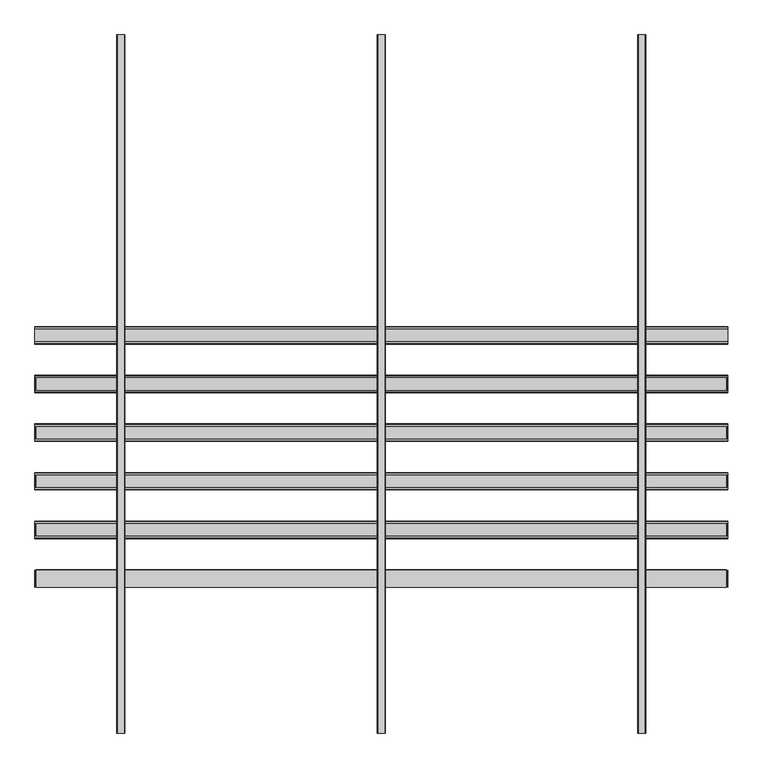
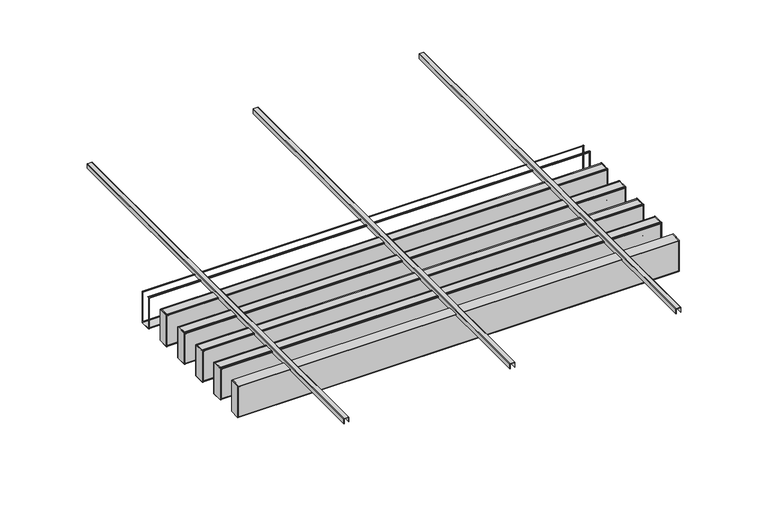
"""IFC4 building model written with IfcOpenShell, lengths in millimetres: proxy geometry, durlum_POLYLAM : durlum_POLYLAM 100 RV-L6."""

from ifc_helpers import new_model, si_unit, point, frame, frame_2d, origin, place, context, project, spatial, polyline, circle_curve, trimmed, segment, composite_curve, outline, extrude, source, transform, mapped, element, save
from ifc_brep_helpers import plane_surface, cylinder_surface, advanced_brep


def generic_models_fc41ec27(model_context):
    return source(origin(), model_context, "Body", "SolidModel", [
        advanced_brep(
        [(1995.0, 328.0, 2016.9), (1995.0, 318.0, 2016.9), (1995.0, 318.0, 2015.9), (1995.0, 329.0, 2015.9), (1995.0, 329.0, 1717.9), (1995.0, 231.0, 1717.9), (1995.0, 231.0, 2015.8155735), (1995.0, 242.0, 2015.8155735), (1995.0, 242.0, 2016.9), (1995.0, 232.0, 2016.9), (1995.0, 230.0, 2014.9), (1995.0, 230.0, 1718.9), (1995.0, 232.0, 1716.9), (1995.0, 328.0, 1716.9), (1995.0, 330.0, 1718.9), (1995.0, 330.0, 2014.9), (-1995.0, 328.0, 2016.9), (-1995.0, 330.0, 2014.9), (-1995.0, 330.0, 1718.9), (-1995.0, 328.0, 1716.9), (-1995.0, 232.0, 1716.9), (-1995.0, 230.0, 1718.9), (-1995.0, 230.0, 2014.9), (-1995.0, 232.0, 2016.9), (-1995.0, 242.0, 2016.9), (-1995.0, 242.0, 2015.8155735), (-1995.0, 231.0, 2015.8155735), (-1995.0, 231.0, 1717.9), (-1995.0, 329.0, 1717.9), (-1995.0, 329.0, 2015.9), (-1995.0, 318.0, 2015.9), (-1995.0, 318.0, 2016.9), (-1986.5, 329.0, 2008.4), (1986.5, 329.0, 2008.4), (1986.5, 329.0, 1725.4), (-1986.5, 329.0, 1725.4), (1986.5, 231.0, 2008.4), (-1986.5, 231.0, 2008.4), (-1986.5, 231.0, 1725.4), (1986.5, 231.0, 1725.4), (-1986.5, 230.0, 2008.4), (1986.5, 230.0, 2008.4), (1986.5, 230.0, 1725.4), (-1986.5, 230.0, 1725.4), (1986.5, 330.0, 2008.4), (-1986.5, 330.0, 2008.4), (-1986.5, 330.0, 1725.4), (1986.5, 330.0, 1725.4)],
        [
            (0, 1),
            (1, 2),
            (2, 3),
            (3, 4),
            (4, 5),
            (5, 6),
            (6, 7),
            (7, 8),
            (8, 9),
            (9, 10, circle_curve(frame((1995.0, 232.0, 2014.9), z_axis=(1.0, 0.0, 0.0), x_axis=(0.0, 1.0, 0.0)), 2.0)),
            (10, 11),
            (11, 12, circle_curve(frame((1995.0, 232.0, 1718.9), z_axis=(1.0, 0.0, 0.0), x_axis=(0.0, 1.0, 0.0)), 2.0)),
            (12, 13),
            (13, 14, circle_curve(frame((1995.0, 328.0, 1718.9), z_axis=(1.0, 0.0, 0.0), x_axis=(0.0, 1.0, 0.0)), 2.0)),
            (14, 15),
            (15, 0, circle_curve(frame((1995.0, 328.0, 2014.9), z_axis=(1.0, 0.0, 0.0), x_axis=(0.0, 1.0, 0.0)), 2.0)),
            (16, 17, circle_curve(frame((-1995.0, 328.0, 2014.9), z_axis=(-1.0, 0.0, 0.0), x_axis=(0.0, 1.0, 0.0)), 2.0)),
            (17, 18),
            (18, 19, circle_curve(frame((-1995.0, 328.0, 1718.9), z_axis=(-1.0, 0.0, 0.0), x_axis=(0.0, 1.0, 0.0)), 2.0)),
            (19, 20),
            (20, 21, circle_curve(frame((-1995.0, 232.0, 1718.9), z_axis=(-1.0, 0.0, 0.0), x_axis=(0.0, 1.0, 0.0)), 2.0)),
            (21, 22),
            (22, 23, circle_curve(frame((-1995.0, 232.0, 2014.9), z_axis=(-1.0, 0.0, 0.0), x_axis=(0.0, 1.0, 0.0)), 2.0)),
            (23, 24),
            (24, 25),
            (25, 26),
            (26, 27),
            (27, 28),
            (28, 29),
            (29, 30),
            (30, 31),
            (31, 16),
            (0, 16),
            (31, 1),
            (30, 2),
            (29, 3),
            (28, 4),
            (32, 33),
            (33, 34),
            (34, 35),
            (35, 32),
            (27, 5),
            (26, 6),
            (36, 37),
            (37, 38),
            (38, 39),
            (39, 36),
            (25, 7),
            (24, 8),
            (23, 9),
            (10, 22),
            (21, 11),
            (40, 41),
            (41, 42),
            (42, 43),
            (43, 40),
            (12, 20),
            (19, 13),
            (14, 18),
            (17, 15),
            (44, 45),
            (45, 46),
            (46, 47),
            (47, 44),
            (44, 33),
            (32, 45),
            (36, 41),
            (40, 37),
            (35, 46),
            (43, 38),
            (34, 47),
            (42, 39),
        ],
        [
            plane_surface(frame((1995.0, 318.0, 2016.9), z_axis=(1.0, 0.0, 0.0), x_axis=(0.0, -1.0, 0.0))),
            plane_surface(frame((-1995.0, 318.0, 2016.9), z_axis=(-1.0, 0.0, 0.0), x_axis=(0.0, 1.0, 0.0))),
            plane_surface(frame((1995.0, 328.0, 2016.9), z_axis=(0.0, 0.0, 1.0), x_axis=(-1.0, 0.0, 0.0))),
            plane_surface(frame((1995.0, 318.0, 2016.9), z_axis=(0.0, -1.0, 0.0), x_axis=(-1.0, 0.0, 0.0))),
            plane_surface(frame((1995.0, 318.0, 2015.9), z_axis=(0.0, 0.0, -1.0), x_axis=(-1.0, 0.0, 0.0))),
            plane_surface(frame((1995.0, 329.0, 2015.9), z_axis=(0.0, -1.0, 0.0), x_axis=(-1.0, 0.0, 0.0))),
            plane_surface(frame((1995.0, 329.0, 1717.9), z_axis=(0.0, 0.0, 1.0), x_axis=(-1.0, 0.0, 0.0))),
            plane_surface(frame((1995.0, 231.0, 1717.9), z_axis=(0.0, 1.0, 0.0), x_axis=(-1.0, 0.0, 0.0))),
            plane_surface(frame((1995.0, 231.0, 2015.8155735), z_axis=(0.0, 0.0, -1.0), x_axis=(-1.0, 0.0, 0.0))),
            plane_surface(frame((1995.0, 242.0, 2015.8155735), z_axis=(0.0, 1.0, 0.0), x_axis=(-1.0, 0.0, 0.0))),
            plane_surface(frame((1995.0, 242.0, 2016.9), z_axis=(0.0, 0.0, 1.0), x_axis=(-1.0, 0.0, 0.0))),
            plane_surface(frame((1995.0, 230.0, 2014.9), z_axis=(0.0, -1.0, 0.0), x_axis=(-1.0, 0.0, 0.0))),
            plane_surface(frame((1995.0, 232.0, 1716.9), z_axis=(0.0, 0.0, -1.0), x_axis=(-1.0, 0.0, 0.0))),
            plane_surface(frame((1995.0, 330.0, 1718.9), z_axis=(0.0, 1.0, 0.0), x_axis=(-1.0, 0.0, 0.0))),
            cylinder_surface(frame((-1995.0, 232.0, 2014.9), z_axis=(1.0, 0.0, 0.0), x_axis=(0.0, 1.0, 0.0)), 2.0),
            cylinder_surface(frame((-1995.0, 232.0, 1718.9), z_axis=(1.0, 0.0, 0.0), x_axis=(0.0, 1.0, 0.0)), 2.0),
            cylinder_surface(frame((-1995.0, 328.0, 1718.9), z_axis=(1.0, 0.0, 0.0), x_axis=(0.0, 1.0, 0.0)), 2.0),
            cylinder_surface(frame((-1995.0, 328.0, 2014.9), z_axis=(1.0, 0.0, 0.0), x_axis=(0.0, 1.0, 0.0)), 2.0),
            plane_surface(frame((1986.5, 230.0, 2008.4), z_axis=(0.0, 0.0, -1.0), x_axis=(0.0, 1.0, 0.0))),
            plane_surface(frame((-1986.5, 230.0, 2008.4), z_axis=(1.0, 0.0, 0.0), x_axis=(0.0, 1.0, 0.0))),
            plane_surface(frame((-1986.5, 230.0, 1725.4), z_axis=(0.0, 0.0, 1.0), x_axis=(0.0, 1.0, 0.0))),
            plane_surface(frame((1986.5, 230.0, 1725.4), z_axis=(-1.0, 0.0, 0.0), x_axis=(0.0, 1.0, 0.0))),
        ],
        [
            (0, [[1, 2, 3, 4, 5, 6, 7, 8, 9, 10, 11, 12, 13, 14, 15, 16]]),
            (1, [[17, 18, 19, 20, 21, 22, 23, 24, 25, 26, 27, 28, 29, 30, 31, 32]]),
            (2, [[-1, 33, -32, 34]]),
            (3, [[-2, -34, -31, 35]]),
            (4, [[-3, -35, -30, 36]]),
            (5, [[-4, -36, -29, 37], [38, 39, 40, 41]]),
            (6, [[-5, -37, -28, 42]]),
            (7, [[-6, -42, -27, 43], [44, 45, 46, 47]]),
            (8, [[-7, -43, -26, 48]]),
            (9, [[-8, -48, -25, 49]]),
            (10, [[-9, -49, -24, 50]]),
            (11, [[-11, 51, -22, 52], [53, 54, 55, 56]]),
            (12, [[-13, 57, -20, 58]]),
            (13, [[-15, 59, -18, 60], [61, 62, 63, 64]]),
            (14, [[-10, -50, -23, -51]]),
            (15, [[-12, -52, -21, -57]]),
            (16, [[-14, -58, -19, -59]]),
            (17, [[-16, -60, -17, -33]]),
            (18, [[65, -38, 66, -61]]),
            (18, [[67, -53, 68, -44]]),
            (19, [[-66, -41, 69, -62]]),
            (19, [[-68, -56, 70, -45]]),
            (20, [[-69, -40, 71, -63]]),
            (20, [[-70, -55, 72, -46]]),
            (21, [[-65, -64, -71, -39]]),
            (21, [[-67, -47, -72, -54]]),
        ],
    ),
        extrude(outline(composite_curve([segment(polyline([(2005.0, 22.5), (2047.0, 22.5)]), True, "CONTINUOUS"), segment(trimmed(circle_curve(frame_2d((2047.0, 19.5)), 3.0), [point((2047.0, 22.5))], [point((2050.0, 19.5))], False, "CARTESIAN"), True, "CONTINUOUS"), segment(polyline([(2050.0, 19.5), (2050.0, -19.5)]), True, "CONTINUOUS"), segment(trimmed(circle_curve(frame_2d((2047.0, -19.5)), 3.0), [point((2050.0, -19.5))], [point((2047.0, -22.5))], False, "CARTESIAN"), True, "CONTINUOUS"), segment(polyline([(2047.0, -22.5), (2005.0, -22.5), (2005.0, -21.0), (2047.0, -21.0)]), True, "CONTINUOUS"), segment(trimmed(circle_curve(frame_2d((2047.0, -19.5)), 1.5), [point((2047.0, -21.0))], [point((2048.5, -19.5))], True, "CARTESIAN"), True, "CONTINUOUS"), segment(polyline([(2048.5, -19.5), (2048.5, 19.5)]), True, "CONTINUOUS"), segment(trimmed(circle_curve(frame_2d((2047.0, 19.5)), 1.5), [point((2048.5, 19.5))], [point((2047.0, 21.0))], True, "CARTESIAN"), True, "CONTINUOUS"), segment(polyline([(2047.0, 21.0), (2005.0, 21.0), (2005.0, 22.5)]), True, "CONTINUOUS")], self_intersect=False)), frame((0.0, -2010.0, 0.0), z_axis=(0.0, 1.0, 0.0), x_axis=(0.0, 0.0, 1.0)), (0.0, 0.0, 1.0), 4020.0),
        extrude(outline(composite_curve([segment(polyline([(2005.0, -1477.5), (2047.0, -1477.5)]), True, "CONTINUOUS"), segment(trimmed(circle_curve(frame_2d((2047.0, -1480.5)), 3.0), [point((2047.0, -1477.5))], [point((2050.0, -1480.5))], False, "CARTESIAN"), True, "CONTINUOUS"), segment(polyline([(2050.0, -1480.5), (2050.0, -1519.5)]), True, "CONTINUOUS"), segment(trimmed(circle_curve(frame_2d((2047.0, -1519.5)), 3.0), [point((2050.0, -1519.5))], [point((2047.0, -1522.5))], False, "CARTESIAN"), True, "CONTINUOUS"), segment(polyline([(2047.0, -1522.5), (2005.0, -1522.5), (2005.0, -1521.0), (2047.0, -1521.0)]), True, "CONTINUOUS"), segment(trimmed(circle_curve(frame_2d((2047.0, -1519.5)), 1.5), [point((2047.0, -1521.0))], [point((2048.5, -1519.5))], True, "CARTESIAN"), True, "CONTINUOUS"), segment(polyline([(2048.5, -1519.5), (2048.5, -1480.5)]), True, "CONTINUOUS"), segment(trimmed(circle_curve(frame_2d((2047.0, -1480.5)), 1.5), [point((2048.5, -1480.5))], [point((2047.0, -1479.0))], True, "CARTESIAN"), True, "CONTINUOUS"), segment(polyline([(2047.0, -1479.0), (2005.0, -1479.0), (2005.0, -1477.5)]), True, "CONTINUOUS")], self_intersect=False)), frame((0.0, -2010.0, 0.0), z_axis=(0.0, 1.0, 0.0), x_axis=(0.0, 0.0, 1.0)), (0.0, 0.0, 1.0), 4020.0),
        extrude(outline(composite_curve([segment(polyline([(2005.0, 1522.5), (2047.0, 1522.5)]), True, "CONTINUOUS"), segment(trimmed(circle_curve(frame_2d((2047.0, 1519.5)), 3.0), [point((2047.0, 1522.5))], [point((2050.0, 1519.5))], False, "CARTESIAN"), True, "CONTINUOUS"), segment(polyline([(2050.0, 1519.5), (2050.0, 1480.5)]), True, "CONTINUOUS"), segment(trimmed(circle_curve(frame_2d((2047.0, 1480.5)), 3.0), [point((2050.0, 1480.5))], [point((2047.0, 1477.5))], False, "CARTESIAN"), True, "CONTINUOUS"), segment(polyline([(2047.0, 1477.5), (2005.0, 1477.5), (2005.0, 1479.0), (2047.0, 1479.0)]), True, "CONTINUOUS"), segment(trimmed(circle_curve(frame_2d((2047.0, 1480.5)), 1.5), [point((2047.0, 1479.0))], [point((2048.5, 1480.5))], True, "CARTESIAN"), True, "CONTINUOUS"), segment(polyline([(2048.5, 1480.5), (2048.5, 1519.5)]), True, "CONTINUOUS"), segment(trimmed(circle_curve(frame_2d((2047.0, 1519.5)), 1.5), [point((2048.5, 1519.5))], [point((2047.0, 1521.0))], True, "CARTESIAN"), True, "CONTINUOUS"), segment(polyline([(2047.0, 1521.0), (2005.0, 1521.0), (2005.0, 1522.5)]), True, "CONTINUOUS")], self_intersect=False)), frame((0.0, -2010.0, 0.0), z_axis=(0.0, 1.0, 0.0), x_axis=(0.0, 0.0, 1.0)), (0.0, 0.0, 1.0), 4020.0),
        extrude(outline(polyline([(1993.0, 49.0), (1995.0, 49.0), (1995.0, -49.0), (1993.0, -49.0), (1993.0, 49.0)])), frame((0.0, 0.0, 1717.9), z_axis=(0.0, 0.0, 1.0), x_axis=(1.0, 0.0, 0.0)), (0.0, 0.0, 1.0), 298.0),
        extrude(outline(polyline([(-1995.0, 49.0), (-1993.0, 49.0), (-1993.0, -49.0), (-1995.0, -49.0), (-1995.0, 49.0)])), frame((0.0, 0.0, 1717.9), z_axis=(0.0, 0.0, 1.0), x_axis=(1.0, 0.0, 0.0)), (0.0, 0.0, 1.0), 298.0),
        extrude(outline(polyline([(1986.5, 49.0), (1986.5, -49.0), (-1986.5, -49.0), (-1986.5, 49.0), (1986.5, 49.0)])), frame((0.0, 0.0, 1717.9), z_axis=(0.0, 0.0, 1.0), x_axis=(1.0, 0.0, 0.0)), (0.0, 0.0, 1.0), 298.0),
        extrude(outline(polyline([(1986.5, 49.0), (-1986.5, 49.0), (-1986.5, 50.0), (1986.5, 50.0), (1986.5, 49.0)])), frame((0.0, 0.0, 1725.4), z_axis=(0.0, 0.0, 1.0), x_axis=(1.0, 0.0, 0.0)), (0.0, 0.0, 1.0), 283.0),
        extrude(outline(polyline([(1986.5, -50.0), (-1986.5, -50.0), (-1986.5, -49.0), (1986.5, -49.0), (1986.5, -50.0)])), frame((0.0, 0.0, 1725.4), z_axis=(0.0, 0.0, 1.0), x_axis=(1.0, 0.0, 0.0)), (0.0, 0.0, 1.0), 283.0),
        advanced_brep(
        [(1995.0, 48.0, 2016.9), (1995.0, 38.0, 2016.9), (1995.0, 38.0, 2015.9), (1995.0, 49.0, 2015.9), (1995.0, 49.0, 1717.9), (1995.0, -49.0, 1717.9), (1995.0, -49.0, 2015.8155735), (1995.0, -38.0, 2015.8155735), (1995.0, -38.0, 2016.9), (1995.0, -48.0, 2016.9), (1995.0, -50.0, 2014.9), (1995.0, -50.0, 1718.9), (1995.0, -48.0, 1716.9), (1995.0, 48.0, 1716.9), (1995.0, 50.0, 1718.9), (1995.0, 50.0, 2014.9), (-1995.0, 48.0, 2016.9), (-1995.0, 50.0, 2014.9), (-1995.0, 50.0, 1718.9), (-1995.0, 48.0, 1716.9), (-1995.0, -48.0, 1716.9), (-1995.0, -50.0, 1718.9), (-1995.0, -50.0, 2014.9), (-1995.0, -48.0, 2016.9), (-1995.0, -38.0, 2016.9), (-1995.0, -38.0, 2015.8155735), (-1995.0, -49.0, 2015.8155735), (-1995.0, -49.0, 1717.9), (-1995.0, 49.0, 1717.9), (-1995.0, 49.0, 2015.9), (-1995.0, 38.0, 2015.9), (-1995.0, 38.0, 2016.9), (-1986.5, 49.0, 2008.4), (1986.5, 49.0, 2008.4), (1986.5, 49.0, 1725.4), (-1986.5, 49.0, 1725.4), (1986.5, -49.0, 2008.4), (-1986.5, -49.0, 2008.4), (-1986.5, -49.0, 1725.4), (1986.5, -49.0, 1725.4), (-1986.5, -50.0, 2008.4), (1986.5, -50.0, 2008.4), (1986.5, -50.0, 1725.4), (-1986.5, -50.0, 1725.4), (1986.5, 50.0, 2008.4), (-1986.5, 50.0, 2008.4), (-1986.5, 50.0, 1725.4), (1986.5, 50.0, 1725.4)],
        [
            (0, 1),
            (1, 2),
            (2, 3),
            (3, 4),
            (4, 5),
            (5, 6),
            (6, 7),
            (7, 8),
            (8, 9),
            (9, 10, circle_curve(frame((1995.0, -48.0, 2014.9), z_axis=(1.0, 0.0, 0.0), x_axis=(0.0, 1.0, 0.0)), 2.0)),
            (10, 11),
            (11, 12, circle_curve(frame((1995.0, -48.0, 1718.9), z_axis=(1.0, 0.0, 0.0), x_axis=(0.0, 1.0, 0.0)), 2.0)),
            (12, 13),
            (13, 14, circle_curve(frame((1995.0, 48.0, 1718.9), z_axis=(1.0, 0.0, 0.0), x_axis=(0.0, 1.0, 0.0)), 2.0)),
            (14, 15),
            (15, 0, circle_curve(frame((1995.0, 48.0, 2014.9), z_axis=(1.0, 0.0, 0.0), x_axis=(0.0, 1.0, 0.0)), 2.0)),
            (16, 17, circle_curve(frame((-1995.0, 48.0, 2014.9), z_axis=(-1.0, 0.0, 0.0), x_axis=(0.0, 1.0, 0.0)), 2.0)),
            (17, 18),
            (18, 19, circle_curve(frame((-1995.0, 48.0, 1718.9), z_axis=(-1.0, 0.0, 0.0), x_axis=(0.0, 1.0, 0.0)), 2.0)),
            (19, 20),
            (20, 21, circle_curve(frame((-1995.0, -48.0, 1718.9), z_axis=(-1.0, 0.0, 0.0), x_axis=(0.0, 1.0, 0.0)), 2.0)),
            (21, 22),
            (22, 23, circle_curve(frame((-1995.0, -48.0, 2014.9), z_axis=(-1.0, 0.0, 0.0), x_axis=(0.0, 1.0, 0.0)), 2.0)),
            (23, 24),
            (24, 25),
            (25, 26),
            (26, 27),
            (27, 28),
            (28, 29),
            (29, 30),
            (30, 31),
            (31, 16),
            (0, 16),
            (31, 1),
            (30, 2),
            (29, 3),
            (28, 4),
            (32, 33),
            (33, 34),
            (34, 35),
            (35, 32),
            (27, 5),
            (26, 6),
            (36, 37),
            (37, 38),
            (38, 39),
            (39, 36),
            (25, 7),
            (24, 8),
            (23, 9),
            (10, 22),
            (21, 11),
            (40, 41),
            (41, 42),
            (42, 43),
            (43, 40),
            (12, 20),
            (19, 13),
            (14, 18),
            (17, 15),
            (44, 45),
            (45, 46),
            (46, 47),
            (47, 44),
            (44, 33),
            (32, 45),
            (36, 41),
            (40, 37),
            (35, 46),
            (43, 38),
            (34, 47),
            (42, 39),
        ],
        [
            plane_surface(frame((1995.0, 38.0, 2016.9), z_axis=(1.0, 0.0, 0.0), x_axis=(0.0, -1.0, 0.0))),
            plane_surface(frame((-1995.0, 38.0, 2016.9), z_axis=(-1.0, 0.0, 0.0), x_axis=(0.0, 1.0, 0.0))),
            plane_surface(frame((1995.0, 48.0, 2016.9), z_axis=(0.0, 0.0, 1.0), x_axis=(-1.0, 0.0, 0.0))),
            plane_surface(frame((1995.0, 38.0, 2016.9), z_axis=(0.0, -1.0, 0.0), x_axis=(-1.0, 0.0, 0.0))),
            plane_surface(frame((1995.0, 38.0, 2015.9), z_axis=(0.0, 0.0, -1.0), x_axis=(-1.0, 0.0, 0.0))),
            plane_surface(frame((1995.0, 49.0, 2015.9), z_axis=(0.0, -1.0, 0.0), x_axis=(-1.0, 0.0, 0.0))),
            plane_surface(frame((1995.0, 49.0, 1717.9), z_axis=(0.0, 0.0, 1.0), x_axis=(-1.0, 0.0, 0.0))),
            plane_surface(frame((1995.0, -49.0, 1717.9), z_axis=(0.0, 1.0, 0.0), x_axis=(-1.0, 0.0, 0.0))),
            plane_surface(frame((1995.0, -49.0, 2015.8155735), z_axis=(0.0, 0.0, -1.0), x_axis=(-1.0, 0.0, 0.0))),
            plane_surface(frame((1995.0, -38.0, 2015.8155735), z_axis=(0.0, 1.0, 0.0), x_axis=(-1.0, 0.0, 0.0))),
            plane_surface(frame((1995.0, -38.0, 2016.9), z_axis=(0.0, 0.0, 1.0), x_axis=(-1.0, 0.0, 0.0))),
            plane_surface(frame((1995.0, -50.0, 2014.9), z_axis=(0.0, -1.0, 0.0), x_axis=(-1.0, 0.0, 0.0))),
            plane_surface(frame((1995.0, -48.0, 1716.9), z_axis=(0.0, 0.0, -1.0), x_axis=(-1.0, 0.0, 0.0))),
            plane_surface(frame((1995.0, 50.0, 1718.9), z_axis=(0.0, 1.0, 0.0), x_axis=(-1.0, 0.0, 0.0))),
            cylinder_surface(frame((-1995.0, -48.0, 2014.9), z_axis=(1.0, 0.0, 0.0), x_axis=(0.0, 1.0, 0.0)), 2.0),
            cylinder_surface(frame((-1995.0, -48.0, 1718.9), z_axis=(1.0, 0.0, 0.0), x_axis=(0.0, 1.0, 0.0)), 2.0),
            cylinder_surface(frame((-1995.0, 48.0, 1718.9), z_axis=(1.0, 0.0, 0.0), x_axis=(0.0, 1.0, 0.0)), 2.0),
            cylinder_surface(frame((-1995.0, 48.0, 2014.9), z_axis=(1.0, 0.0, 0.0), x_axis=(0.0, 1.0, 0.0)), 2.0),
            plane_surface(frame((1986.5, -50.0, 2008.4), z_axis=(0.0, 0.0, -1.0), x_axis=(0.0, 1.0, 0.0))),
            plane_surface(frame((-1986.5, -50.0, 2008.4), z_axis=(1.0, 0.0, 0.0), x_axis=(0.0, 1.0, 0.0))),
            plane_surface(frame((-1986.5, -50.0, 1725.4), z_axis=(0.0, 0.0, 1.0), x_axis=(0.0, 1.0, 0.0))),
            plane_surface(frame((1986.5, -50.0, 1725.4), z_axis=(-1.0, 0.0, 0.0), x_axis=(0.0, 1.0, 0.0))),
        ],
        [
            (0, [[1, 2, 3, 4, 5, 6, 7, 8, 9, 10, 11, 12, 13, 14, 15, 16]]),
            (1, [[17, 18, 19, 20, 21, 22, 23, 24, 25, 26, 27, 28, 29, 30, 31, 32]]),
            (2, [[-1, 33, -32, 34]]),
            (3, [[-2, -34, -31, 35]]),
            (4, [[-3, -35, -30, 36]]),
            (5, [[-4, -36, -29, 37], [38, 39, 40, 41]]),
            (6, [[-5, -37, -28, 42]]),
            (7, [[-6, -42, -27, 43], [44, 45, 46, 47]]),
            (8, [[-7, -43, -26, 48]]),
            (9, [[-8, -48, -25, 49]]),
            (10, [[-9, -49, -24, 50]]),
            (11, [[-11, 51, -22, 52], [53, 54, 55, 56]]),
            (12, [[-13, 57, -20, 58]]),
            (13, [[-15, 59, -18, 60], [61, 62, 63, 64]]),
            (14, [[-10, -50, -23, -51]]),
            (15, [[-12, -52, -21, -57]]),
            (16, [[-14, -58, -19, -59]]),
            (17, [[-16, -60, -17, -33]]),
            (18, [[65, -38, 66, -61]]),
            (18, [[67, -53, 68, -44]]),
            (19, [[-66, -41, 69, -62]]),
            (19, [[-68, -56, 70, -45]]),
            (20, [[-69, -40, 71, -63]]),
            (20, [[-70, -55, 72, -46]]),
            (21, [[-65, -64, -71, -39]]),
            (21, [[-67, -47, -72, -54]]),
        ],
    ),
        extrude(outline(polyline([(1993.0, -231.0), (1995.0, -231.0), (1995.0, -329.0), (1993.0, -329.0), (1993.0, -231.0)])), frame((0.0, 0.0, 1717.9), z_axis=(0.0, 0.0, 1.0), x_axis=(1.0, 0.0, 0.0)), (0.0, 0.0, 1.0), 298.0),
        extrude(outline(polyline([(-1995.0, -231.0), (-1993.0, -231.0), (-1993.0, -329.0), (-1995.0, -329.0), (-1995.0, -231.0)])), frame((0.0, 0.0, 1717.9), z_axis=(0.0, 0.0, 1.0), x_axis=(1.0, 0.0, 0.0)), (0.0, 0.0, 1.0), 298.0),
        extrude(outline(polyline([(1986.5, -231.0), (1986.5, -329.0), (-1986.5, -329.0), (-1986.5, -231.0), (1986.5, -231.0)])), frame((0.0, 0.0, 1717.9), z_axis=(0.0, 0.0, 1.0), x_axis=(1.0, 0.0, 0.0)), (0.0, 0.0, 1.0), 298.0),
        extrude(outline(polyline([(1986.5, -231.0), (-1986.5, -231.0), (-1986.5, -230.0), (1986.5, -230.0), (1986.5, -231.0)])), frame((0.0, 0.0, 1725.4), z_axis=(0.0, 0.0, 1.0), x_axis=(1.0, 0.0, 0.0)), (0.0, 0.0, 1.0), 283.0),
        extrude(outline(polyline([(1986.5, -330.0), (-1986.5, -330.0), (-1986.5, -329.0), (1986.5, -329.0), (1986.5, -330.0)])), frame((0.0, 0.0, 1725.4), z_axis=(0.0, 0.0, 1.0), x_axis=(1.0, 0.0, 0.0)), (0.0, 0.0, 1.0), 283.0),
        advanced_brep(
        [(1995.0, -232.0, 2016.9), (1995.0, -242.0, 2016.9), (1995.0, -242.0, 2015.9), (1995.0, -231.0, 2015.9), (1995.0, -231.0, 1717.9), (1995.0, -329.0, 1717.9), (1995.0, -329.0, 2015.8155735), (1995.0, -318.0, 2015.8155735), (1995.0, -318.0, 2016.9), (1995.0, -328.0, 2016.9), (1995.0, -330.0, 2014.9), (1995.0, -330.0, 1718.9), (1995.0, -328.0, 1716.9), (1995.0, -232.0, 1716.9), (1995.0, -230.0, 1718.9), (1995.0, -230.0, 2014.9), (-1995.0, -232.0, 2016.9), (-1995.0, -230.0, 2014.9), (-1995.0, -230.0, 1718.9), (-1995.0, -232.0, 1716.9), (-1995.0, -328.0, 1716.9), (-1995.0, -330.0, 1718.9), (-1995.0, -330.0, 2014.9), (-1995.0, -328.0, 2016.9), (-1995.0, -318.0, 2016.9), (-1995.0, -318.0, 2015.8155735), (-1995.0, -329.0, 2015.8155735), (-1995.0, -329.0, 1717.9), (-1995.0, -231.0, 1717.9), (-1995.0, -231.0, 2015.9), (-1995.0, -242.0, 2015.9), (-1995.0, -242.0, 2016.9), (-1986.5, -231.0, 2008.4), (1986.5, -231.0, 2008.4), (1986.5, -231.0, 1725.4), (-1986.5, -231.0, 1725.4), (1986.5, -329.0, 2008.4), (-1986.5, -329.0, 2008.4), (-1986.5, -329.0, 1725.4), (1986.5, -329.0, 1725.4), (-1986.5, -330.0, 2008.4), (1986.5, -330.0, 2008.4), (1986.5, -330.0, 1725.4), (-1986.5, -330.0, 1725.4), (1986.5, -230.0, 2008.4), (-1986.5, -230.0, 2008.4), (-1986.5, -230.0, 1725.4), (1986.5, -230.0, 1725.4)],
        [
            (0, 1),
            (1, 2),
            (2, 3),
            (3, 4),
            (4, 5),
            (5, 6),
            (6, 7),
            (7, 8),
            (8, 9),
            (9, 10, circle_curve(frame((1995.0, -328.0, 2014.9), z_axis=(1.0, 0.0, 0.0), x_axis=(0.0, 1.0, 0.0)), 2.0)),
            (10, 11),
            (11, 12, circle_curve(frame((1995.0, -328.0, 1718.9), z_axis=(1.0, 0.0, 0.0), x_axis=(0.0, 1.0, 0.0)), 2.0)),
            (12, 13),
            (13, 14, circle_curve(frame((1995.0, -232.0, 1718.9), z_axis=(1.0, 0.0, 0.0), x_axis=(0.0, 1.0, 0.0)), 2.0)),
            (14, 15),
            (15, 0, circle_curve(frame((1995.0, -232.0, 2014.9), z_axis=(1.0, 0.0, 0.0), x_axis=(0.0, 1.0, 0.0)), 2.0)),
            (16, 17, circle_curve(frame((-1995.0, -232.0, 2014.9), z_axis=(-1.0, 0.0, 0.0), x_axis=(0.0, 1.0, 0.0)), 2.0)),
            (17, 18),
            (18, 19, circle_curve(frame((-1995.0, -232.0, 1718.9), z_axis=(-1.0, 0.0, 0.0), x_axis=(0.0, 1.0, 0.0)), 2.0)),
            (19, 20),
            (20, 21, circle_curve(frame((-1995.0, -328.0, 1718.9), z_axis=(-1.0, 0.0, 0.0), x_axis=(0.0, 1.0, 0.0)), 2.0)),
            (21, 22),
            (22, 23, circle_curve(frame((-1995.0, -328.0, 2014.9), z_axis=(-1.0, 0.0, 0.0), x_axis=(0.0, 1.0, 0.0)), 2.0)),
            (23, 24),
            (24, 25),
            (25, 26),
            (26, 27),
            (27, 28),
            (28, 29),
            (29, 30),
            (30, 31),
            (31, 16),
            (0, 16),
            (31, 1),
            (30, 2),
            (29, 3),
            (28, 4),
            (32, 33),
            (33, 34),
            (34, 35),
            (35, 32),
            (27, 5),
            (26, 6),
            (36, 37),
            (37, 38),
            (38, 39),
            (39, 36),
            (25, 7),
            (24, 8),
            (23, 9),
            (10, 22),
            (21, 11),
            (40, 41),
            (41, 42),
            (42, 43),
            (43, 40),
            (12, 20),
            (19, 13),
            (14, 18),
            (17, 15),
            (44, 45),
            (45, 46),
            (46, 47),
            (47, 44),
            (44, 33),
            (32, 45),
            (36, 41),
            (40, 37),
            (35, 46),
            (43, 38),
            (34, 47),
            (42, 39),
        ],
        [
            plane_surface(frame((1995.0, -242.0, 2016.9), z_axis=(1.0, 0.0, 0.0), x_axis=(0.0, -1.0, 0.0))),
            plane_surface(frame((-1995.0, -242.0, 2016.9), z_axis=(-1.0, 0.0, 0.0), x_axis=(0.0, 1.0, 0.0))),
            plane_surface(frame((1995.0, -232.0, 2016.9), z_axis=(0.0, 0.0, 1.0), x_axis=(-1.0, 0.0, 0.0))),
            plane_surface(frame((1995.0, -242.0, 2016.9), z_axis=(0.0, -1.0, 0.0), x_axis=(-1.0, 0.0, 0.0))),
            plane_surface(frame((1995.0, -242.0, 2015.9), z_axis=(0.0, 0.0, -1.0), x_axis=(-1.0, 0.0, 0.0))),
            plane_surface(frame((1995.0, -231.0, 2015.9), z_axis=(0.0, -1.0, 0.0), x_axis=(-1.0, 0.0, 0.0))),
            plane_surface(frame((1995.0, -231.0, 1717.9), z_axis=(0.0, 0.0, 1.0), x_axis=(-1.0, 0.0, 0.0))),
            plane_surface(frame((1995.0, -329.0, 1717.9), z_axis=(0.0, 1.0, 0.0), x_axis=(-1.0, 0.0, 0.0))),
            plane_surface(frame((1995.0, -329.0, 2015.8155735), z_axis=(0.0, 0.0, -1.0), x_axis=(-1.0, 0.0, 0.0))),
            plane_surface(frame((1995.0, -318.0, 2015.8155735), z_axis=(0.0, 1.0, 0.0), x_axis=(-1.0, 0.0, 0.0))),
            plane_surface(frame((1995.0, -318.0, 2016.9), z_axis=(0.0, 0.0, 1.0), x_axis=(-1.0, 0.0, 0.0))),
            plane_surface(frame((1995.0, -330.0, 2014.9), z_axis=(0.0, -1.0, 0.0), x_axis=(-1.0, 0.0, 0.0))),
            plane_surface(frame((1995.0, -328.0, 1716.9), z_axis=(0.0, 0.0, -1.0), x_axis=(-1.0, 0.0, 0.0))),
            plane_surface(frame((1995.0, -230.0, 1718.9), z_axis=(0.0, 1.0, 0.0), x_axis=(-1.0, 0.0, 0.0))),
            cylinder_surface(frame((-1995.0, -328.0, 2014.9), z_axis=(1.0, 0.0, 0.0), x_axis=(0.0, 1.0, 0.0)), 2.0),
            cylinder_surface(frame((-1995.0, -328.0, 1718.9), z_axis=(1.0, 0.0, 0.0), x_axis=(0.0, 1.0, 0.0)), 2.0),
            cylinder_surface(frame((-1995.0, -232.0, 1718.9), z_axis=(1.0, 0.0, 0.0), x_axis=(0.0, 1.0, 0.0)), 2.0),
            cylinder_surface(frame((-1995.0, -232.0, 2014.9), z_axis=(1.0, 0.0, 0.0), x_axis=(0.0, 1.0, 0.0)), 2.0),
            plane_surface(frame((1986.5, -330.0, 2008.4), z_axis=(0.0, 0.0, -1.0), x_axis=(0.0, 1.0, 0.0))),
            plane_surface(frame((-1986.5, -330.0, 2008.4), z_axis=(1.0, 0.0, 0.0), x_axis=(0.0, 1.0, 0.0))),
            plane_surface(frame((-1986.5, -330.0, 1725.4), z_axis=(0.0, 0.0, 1.0), x_axis=(0.0, 1.0, 0.0))),
            plane_surface(frame((1986.5, -330.0, 1725.4), z_axis=(-1.0, 0.0, 0.0), x_axis=(0.0, 1.0, 0.0))),
        ],
        [
            (0, [[1, 2, 3, 4, 5, 6, 7, 8, 9, 10, 11, 12, 13, 14, 15, 16]]),
            (1, [[17, 18, 19, 20, 21, 22, 23, 24, 25, 26, 27, 28, 29, 30, 31, 32]]),
            (2, [[-1, 33, -32, 34]]),
            (3, [[-2, -34, -31, 35]]),
            (4, [[-3, -35, -30, 36]]),
            (5, [[-4, -36, -29, 37], [38, 39, 40, 41]]),
            (6, [[-5, -37, -28, 42]]),
            (7, [[-6, -42, -27, 43], [44, 45, 46, 47]]),
            (8, [[-7, -43, -26, 48]]),
            (9, [[-8, -48, -25, 49]]),
            (10, [[-9, -49, -24, 50]]),
            (11, [[-11, 51, -22, 52], [53, 54, 55, 56]]),
            (12, [[-13, 57, -20, 58]]),
            (13, [[-15, 59, -18, 60], [61, 62, 63, 64]]),
            (14, [[-10, -50, -23, -51]]),
            (15, [[-12, -52, -21, -57]]),
            (16, [[-14, -58, -19, -59]]),
            (17, [[-16, -60, -17, -33]]),
            (18, [[65, -38, 66, -61]]),
            (18, [[67, -53, 68, -44]]),
            (19, [[-66, -41, 69, -62]]),
            (19, [[-68, -56, 70, -45]]),
            (20, [[-69, -40, 71, -63]]),
            (20, [[-70, -55, 72, -46]]),
            (21, [[-65, -64, -71, -39]]),
            (21, [[-67, -47, -72, -54]]),
        ],
    ),
        extrude(outline(polyline([(1993.0, -511.0), (1995.0, -511.0), (1995.0, -609.0), (1993.0, -609.0), (1993.0, -511.0)])), frame((0.0, 0.0, 1717.9), z_axis=(0.0, 0.0, 1.0), x_axis=(1.0, 0.0, 0.0)), (0.0, 0.0, 1.0), 298.0),
        extrude(outline(polyline([(-1995.0, -511.0), (-1993.0, -511.0), (-1993.0, -609.0), (-1995.0, -609.0), (-1995.0, -511.0)])), frame((0.0, 0.0, 1717.9), z_axis=(0.0, 0.0, 1.0), x_axis=(1.0, 0.0, 0.0)), (0.0, 0.0, 1.0), 298.0),
        extrude(outline(polyline([(1986.5, -511.0), (1986.5, -609.0), (-1986.5, -609.0), (-1986.5, -511.0), (1986.5, -511.0)])), frame((0.0, 0.0, 1717.9), z_axis=(0.0, 0.0, 1.0), x_axis=(1.0, 0.0, 0.0)), (0.0, 0.0, 1.0), 298.0),
        extrude(outline(polyline([(1986.5, -511.0), (-1986.5, -511.0), (-1986.5, -510.0), (1986.5, -510.0), (1986.5, -511.0)])), frame((0.0, 0.0, 1725.4), z_axis=(0.0, 0.0, 1.0), x_axis=(1.0, 0.0, 0.0)), (0.0, 0.0, 1.0), 283.0),
        extrude(outline(polyline([(1986.5, -610.0), (-1986.5, -610.0), (-1986.5, -609.0), (1986.5, -609.0), (1986.5, -610.0)])), frame((0.0, 0.0, 1725.4), z_axis=(0.0, 0.0, 1.0), x_axis=(1.0, 0.0, 0.0)), (0.0, 0.0, 1.0), 283.0),
        advanced_brep(
        [(1995.0, -512.0, 2016.9), (1995.0, -522.0, 2016.9), (1995.0, -522.0, 2015.9), (1995.0, -511.0, 2015.9), (1995.0, -511.0, 1717.9), (1995.0, -609.0, 1717.9), (1995.0, -609.0, 2015.8155735), (1995.0, -598.0, 2015.8155735), (1995.0, -598.0, 2016.9), (1995.0, -608.0, 2016.9), (1995.0, -610.0, 2014.9), (1995.0, -610.0, 1718.9), (1995.0, -608.0, 1716.9), (1995.0, -512.0, 1716.9), (1995.0, -510.0, 1718.9), (1995.0, -510.0, 2014.9), (-1995.0, -512.0, 2016.9), (-1995.0, -510.0, 2014.9), (-1995.0, -510.0, 1718.9), (-1995.0, -512.0, 1716.9), (-1995.0, -608.0, 1716.9), (-1995.0, -610.0, 1718.9), (-1995.0, -610.0, 2014.9), (-1995.0, -608.0, 2016.9), (-1995.0, -598.0, 2016.9), (-1995.0, -598.0, 2015.8155735), (-1995.0, -609.0, 2015.8155735), (-1995.0, -609.0, 1717.9), (-1995.0, -511.0, 1717.9), (-1995.0, -511.0, 2015.9), (-1995.0, -522.0, 2015.9), (-1995.0, -522.0, 2016.9), (-1986.5, -511.0, 2008.4), (1986.5, -511.0, 2008.4), (1986.5, -511.0, 1725.4), (-1986.5, -511.0, 1725.4), (1986.5, -609.0, 2008.4), (-1986.5, -609.0, 2008.4), (-1986.5, -609.0, 1725.4), (1986.5, -609.0, 1725.4), (-1986.5, -610.0, 2008.4), (1986.5, -610.0, 2008.4), (1986.5, -610.0, 1725.4), (-1986.5, -610.0, 1725.4), (1986.5, -510.0, 2008.4), (-1986.5, -510.0, 2008.4), (-1986.5, -510.0, 1725.4), (1986.5, -510.0, 1725.4)],
        [
            (0, 1),
            (1, 2),
            (2, 3),
            (3, 4),
            (4, 5),
            (5, 6),
            (6, 7),
            (7, 8),
            (8, 9),
            (9, 10, circle_curve(frame((1995.0, -608.0, 2014.9), z_axis=(1.0, 0.0, 0.0), x_axis=(0.0, 1.0, 0.0)), 2.0)),
            (10, 11),
            (11, 12, circle_curve(frame((1995.0, -608.0, 1718.9), z_axis=(1.0, 0.0, 0.0), x_axis=(0.0, 1.0, 0.0)), 2.0)),
            (12, 13),
            (13, 14, circle_curve(frame((1995.0, -512.0, 1718.9), z_axis=(1.0, 0.0, 0.0), x_axis=(0.0, 1.0, 0.0)), 2.0)),
            (14, 15),
            (15, 0, circle_curve(frame((1995.0, -512.0, 2014.9), z_axis=(1.0, 0.0, 0.0), x_axis=(0.0, 1.0, 0.0)), 2.0)),
            (16, 17, circle_curve(frame((-1995.0, -512.0, 2014.9), z_axis=(-1.0, 0.0, 0.0), x_axis=(0.0, 1.0, 0.0)), 2.0)),
            (17, 18),
            (18, 19, circle_curve(frame((-1995.0, -512.0, 1718.9), z_axis=(-1.0, 0.0, 0.0), x_axis=(0.0, 1.0, 0.0)), 2.0)),
            (19, 20),
            (20, 21, circle_curve(frame((-1995.0, -608.0, 1718.9), z_axis=(-1.0, 0.0, 0.0), x_axis=(0.0, 1.0, 0.0)), 2.0)),
            (21, 22),
            (22, 23, circle_curve(frame((-1995.0, -608.0, 2014.9), z_axis=(-1.0, 0.0, 0.0), x_axis=(0.0, 1.0, 0.0)), 2.0)),
            (23, 24),
            (24, 25),
            (25, 26),
            (26, 27),
            (27, 28),
            (28, 29),
            (29, 30),
            (30, 31),
            (31, 16),
            (0, 16),
            (31, 1),
            (30, 2),
            (29, 3),
            (28, 4),
            (32, 33),
            (33, 34),
            (34, 35),
            (35, 32),
            (27, 5),
            (26, 6),
            (36, 37),
            (37, 38),
            (38, 39),
            (39, 36),
            (25, 7),
            (24, 8),
            (23, 9),
            (10, 22),
            (21, 11),
            (40, 41),
            (41, 42),
            (42, 43),
            (43, 40),
            (12, 20),
            (19, 13),
            (14, 18),
            (17, 15),
            (44, 45),
            (45, 46),
            (46, 47),
            (47, 44),
            (44, 33),
            (32, 45),
            (36, 41),
            (40, 37),
            (35, 46),
            (43, 38),
            (34, 47),
            (42, 39),
        ],
        [
            plane_surface(frame((1995.0, -522.0, 2016.9), z_axis=(1.0, 0.0, 0.0), x_axis=(0.0, -1.0, 0.0))),
            plane_surface(frame((-1995.0, -522.0, 2016.9), z_axis=(-1.0, 0.0, 0.0), x_axis=(0.0, 1.0, 0.0))),
            plane_surface(frame((1995.0, -512.0, 2016.9), z_axis=(0.0, 0.0, 1.0), x_axis=(-1.0, 0.0, 0.0))),
            plane_surface(frame((1995.0, -522.0, 2016.9), z_axis=(0.0, -1.0, 0.0), x_axis=(-1.0, 0.0, 0.0))),
            plane_surface(frame((1995.0, -522.0, 2015.9), z_axis=(0.0, 0.0, -1.0), x_axis=(-1.0, 0.0, 0.0))),
            plane_surface(frame((1995.0, -511.0, 2015.9), z_axis=(0.0, -1.0, 0.0), x_axis=(-1.0, 0.0, 0.0))),
            plane_surface(frame((1995.0, -511.0, 1717.9), z_axis=(0.0, 0.0, 1.0), x_axis=(-1.0, 0.0, 0.0))),
            plane_surface(frame((1995.0, -609.0, 1717.9), z_axis=(0.0, 1.0, 0.0), x_axis=(-1.0, 0.0, 0.0))),
            plane_surface(frame((1995.0, -609.0, 2015.8155735), z_axis=(0.0, 0.0, -1.0), x_axis=(-1.0, 0.0, 0.0))),
            plane_surface(frame((1995.0, -598.0, 2015.8155735), z_axis=(0.0, 1.0, 0.0), x_axis=(-1.0, 0.0, 0.0))),
            plane_surface(frame((1995.0, -598.0, 2016.9), z_axis=(0.0, 0.0, 1.0), x_axis=(-1.0, 0.0, 0.0))),
            plane_surface(frame((1995.0, -610.0, 2014.9), z_axis=(0.0, -1.0, 0.0), x_axis=(-1.0, 0.0, 0.0))),
            plane_surface(frame((1995.0, -608.0, 1716.9), z_axis=(0.0, 0.0, -1.0), x_axis=(-1.0, 0.0, 0.0))),
            plane_surface(frame((1995.0, -510.0, 1718.9), z_axis=(0.0, 1.0, 0.0), x_axis=(-1.0, 0.0, 0.0))),
            cylinder_surface(frame((-1995.0, -608.0, 2014.9), z_axis=(1.0, 0.0, 0.0), x_axis=(0.0, 1.0, 0.0)), 2.0),
            cylinder_surface(frame((-1995.0, -608.0, 1718.9), z_axis=(1.0, 0.0, 0.0), x_axis=(0.0, 1.0, 0.0)), 2.0),
            cylinder_surface(frame((-1995.0, -512.0, 1718.9), z_axis=(1.0, 0.0, 0.0), x_axis=(0.0, 1.0, 0.0)), 2.0),
            cylinder_surface(frame((-1995.0, -512.0, 2014.9), z_axis=(1.0, 0.0, 0.0), x_axis=(0.0, 1.0, 0.0)), 2.0),
            plane_surface(frame((1986.5, -610.0, 2008.4), z_axis=(0.0, 0.0, -1.0), x_axis=(0.0, 1.0, 0.0))),
            plane_surface(frame((-1986.5, -610.0, 2008.4), z_axis=(1.0, 0.0, 0.0), x_axis=(0.0, 1.0, 0.0))),
            plane_surface(frame((-1986.5, -610.0, 1725.4), z_axis=(0.0, 0.0, 1.0), x_axis=(0.0, 1.0, 0.0))),
            plane_surface(frame((1986.5, -610.0, 1725.4), z_axis=(-1.0, 0.0, 0.0), x_axis=(0.0, 1.0, 0.0))),
        ],
        [
            (0, [[1, 2, 3, 4, 5, 6, 7, 8, 9, 10, 11, 12, 13, 14, 15, 16]]),
            (1, [[17, 18, 19, 20, 21, 22, 23, 24, 25, 26, 27, 28, 29, 30, 31, 32]]),
            (2, [[-1, 33, -32, 34]]),
            (3, [[-2, -34, -31, 35]]),
            (4, [[-3, -35, -30, 36]]),
            (5, [[-4, -36, -29, 37], [38, 39, 40, 41]]),
            (6, [[-5, -37, -28, 42]]),
            (7, [[-6, -42, -27, 43], [44, 45, 46, 47]]),
            (8, [[-7, -43, -26, 48]]),
            (9, [[-8, -48, -25, 49]]),
            (10, [[-9, -49, -24, 50]]),
            (11, [[-11, 51, -22, 52], [53, 54, 55, 56]]),
            (12, [[-13, 57, -20, 58]]),
            (13, [[-15, 59, -18, 60], [61, 62, 63, 64]]),
            (14, [[-10, -50, -23, -51]]),
            (15, [[-12, -52, -21, -57]]),
            (16, [[-14, -58, -19, -59]]),
            (17, [[-16, -60, -17, -33]]),
            (18, [[65, -38, 66, -61]]),
            (18, [[67, -53, 68, -44]]),
            (19, [[-66, -41, 69, -62]]),
            (19, [[-68, -56, 70, -45]]),
            (20, [[-69, -40, 71, -63]]),
            (20, [[-70, -55, 72, -46]]),
            (21, [[-65, -64, -71, -39]]),
            (21, [[-67, -47, -72, -54]]),
        ],
    ),
        extrude(outline(polyline([(1993.0, -791.0), (1995.0, -791.0), (1995.0, -889.0), (1993.0, -889.0), (1993.0, -791.0)])), frame((0.0, 0.0, 1717.9), z_axis=(0.0, 0.0, 1.0), x_axis=(1.0, 0.0, 0.0)), (0.0, 0.0, 1.0), 298.0),
        extrude(outline(polyline([(-1995.0, -791.0), (-1993.0, -791.0), (-1993.0, -889.0), (-1995.0, -889.0), (-1995.0, -791.0)])), frame((0.0, 0.0, 1717.9), z_axis=(0.0, 0.0, 1.0), x_axis=(1.0, 0.0, 0.0)), (0.0, 0.0, 1.0), 298.0),
        extrude(outline(polyline([(1986.5, -791.0), (1986.5, -889.0), (-1986.5, -889.0), (-1986.5, -791.0), (1986.5, -791.0)])), frame((0.0, 0.0, 1717.9), z_axis=(0.0, 0.0, 1.0), x_axis=(1.0, 0.0, 0.0)), (0.0, 0.0, 1.0), 298.0),
        extrude(outline(polyline([(1986.5, -791.0), (-1986.5, -791.0), (-1986.5, -790.0), (1986.5, -790.0), (1986.5, -791.0)])), frame((0.0, 0.0, 1725.4), z_axis=(0.0, 0.0, 1.0), x_axis=(1.0, 0.0, 0.0)), (0.0, 0.0, 1.0), 283.0),
        extrude(outline(polyline([(1986.5, -890.0), (-1986.5, -890.0), (-1986.5, -889.0), (1986.5, -889.0), (1986.5, -890.0)])), frame((0.0, 0.0, 1725.4), z_axis=(0.0, 0.0, 1.0), x_axis=(1.0, 0.0, 0.0)), (0.0, 0.0, 1.0), 283.0),
        advanced_brep(
        [(1995.0, -792.0, 2016.9), (1995.0, -802.0, 2016.9), (1995.0, -802.0, 2015.9), (1995.0, -791.0, 2015.9), (1995.0, -791.0, 1717.9), (1995.0, -889.0, 1717.9), (1995.0, -889.0, 2015.8155735), (1995.0, -878.0, 2015.8155735), (1995.0, -878.0, 2016.9), (1995.0, -888.0, 2016.9), (1995.0, -890.0, 2014.9), (1995.0, -890.0, 1718.9), (1995.0, -888.0, 1716.9), (1995.0, -792.0, 1716.9), (1995.0, -790.0, 1718.9), (1995.0, -790.0, 2014.9), (-1995.0, -792.0, 2016.9), (-1995.0, -790.0, 2014.9), (-1995.0, -790.0, 1718.9), (-1995.0, -792.0, 1716.9), (-1995.0, -888.0, 1716.9), (-1995.0, -890.0, 1718.9), (-1995.0, -890.0, 2014.9), (-1995.0, -888.0, 2016.9), (-1995.0, -878.0, 2016.9), (-1995.0, -878.0, 2015.8155735), (-1995.0, -889.0, 2015.8155735), (-1995.0, -889.0, 1717.9), (-1995.0, -791.0, 1717.9), (-1995.0, -791.0, 2015.9), (-1995.0, -802.0, 2015.9), (-1995.0, -802.0, 2016.9), (-1986.5, -791.0, 2008.4), (1986.5, -791.0, 2008.4), (1986.5, -791.0, 1725.4), (-1986.5, -791.0, 1725.4), (1986.5, -889.0, 2008.4), (-1986.5, -889.0, 2008.4), (-1986.5, -889.0, 1725.4), (1986.5, -889.0, 1725.4), (-1986.5, -890.0, 2008.4), (1986.5, -890.0, 2008.4), (1986.5, -890.0, 1725.4), (-1986.5, -890.0, 1725.4), (1986.5, -790.0, 2008.4), (-1986.5, -790.0, 2008.4), (-1986.5, -790.0, 1725.4), (1986.5, -790.0, 1725.4)],
        [
            (0, 1),
            (1, 2),
            (2, 3),
            (3, 4),
            (4, 5),
            (5, 6),
            (6, 7),
            (7, 8),
            (8, 9),
            (9, 10, circle_curve(frame((1995.0, -888.0, 2014.9), z_axis=(1.0, 0.0, 0.0), x_axis=(0.0, 1.0, 0.0)), 2.0)),
            (10, 11),
            (11, 12, circle_curve(frame((1995.0, -888.0, 1718.9), z_axis=(1.0, 0.0, 0.0), x_axis=(0.0, 1.0, 0.0)), 2.0)),
            (12, 13),
            (13, 14, circle_curve(frame((1995.0, -792.0, 1718.9), z_axis=(1.0, 0.0, 0.0), x_axis=(0.0, 1.0, 0.0)), 2.0)),
            (14, 15),
            (15, 0, circle_curve(frame((1995.0, -792.0, 2014.9), z_axis=(1.0, 0.0, 0.0), x_axis=(0.0, 1.0, 0.0)), 2.0)),
            (16, 17, circle_curve(frame((-1995.0, -792.0, 2014.9), z_axis=(-1.0, 0.0, 0.0), x_axis=(0.0, 1.0, 0.0)), 2.0)),
            (17, 18),
            (18, 19, circle_curve(frame((-1995.0, -792.0, 1718.9), z_axis=(-1.0, 0.0, 0.0), x_axis=(0.0, 1.0, 0.0)), 2.0)),
            (19, 20),
            (20, 21, circle_curve(frame((-1995.0, -888.0, 1718.9), z_axis=(-1.0, 0.0, 0.0), x_axis=(0.0, 1.0, 0.0)), 2.0)),
            (21, 22),
            (22, 23, circle_curve(frame((-1995.0, -888.0, 2014.9), z_axis=(-1.0, 0.0, 0.0), x_axis=(0.0, 1.0, 0.0)), 2.0)),
            (23, 24),
            (24, 25),
            (25, 26),
            (26, 27),
            (27, 28),
            (28, 29),
            (29, 30),
            (30, 31),
            (31, 16),
            (0, 16),
            (31, 1),
            (30, 2),
            (29, 3),
            (28, 4),
            (32, 33),
            (33, 34),
            (34, 35),
            (35, 32),
            (27, 5),
            (26, 6),
            (36, 37),
            (37, 38),
            (38, 39),
            (39, 36),
            (25, 7),
            (24, 8),
            (23, 9),
            (10, 22),
            (21, 11),
            (40, 41),
            (41, 42),
            (42, 43),
            (43, 40),
            (12, 20),
            (19, 13),
            (14, 18),
            (17, 15),
            (44, 45),
            (45, 46),
            (46, 47),
            (47, 44),
            (44, 33),
            (32, 45),
            (36, 41),
            (40, 37),
            (35, 46),
            (43, 38),
            (34, 47),
            (42, 39),
        ],
        [
            plane_surface(frame((1995.0, -802.0, 2016.9), z_axis=(1.0, 0.0, 0.0), x_axis=(0.0, -1.0, 0.0))),
            plane_surface(frame((-1995.0, -802.0, 2016.9), z_axis=(-1.0, 0.0, 0.0), x_axis=(0.0, 1.0, 0.0))),
            plane_surface(frame((1995.0, -792.0, 2016.9), z_axis=(0.0, 0.0, 1.0), x_axis=(-1.0, 0.0, 0.0))),
            plane_surface(frame((1995.0, -802.0, 2016.9), z_axis=(0.0, -1.0, 0.0), x_axis=(-1.0, 0.0, 0.0))),
            plane_surface(frame((1995.0, -802.0, 2015.9), z_axis=(0.0, 0.0, -1.0), x_axis=(-1.0, 0.0, 0.0))),
            plane_surface(frame((1995.0, -791.0, 2015.9), z_axis=(0.0, -1.0, 0.0), x_axis=(-1.0, 0.0, 0.0))),
            plane_surface(frame((1995.0, -791.0, 1717.9), z_axis=(0.0, 0.0, 1.0), x_axis=(-1.0, 0.0, 0.0))),
            plane_surface(frame((1995.0, -889.0, 1717.9), z_axis=(0.0, 1.0, 0.0), x_axis=(-1.0, 0.0, 0.0))),
            plane_surface(frame((1995.0, -889.0, 2015.8155735), z_axis=(0.0, 0.0, -1.0), x_axis=(-1.0, 0.0, 0.0))),
            plane_surface(frame((1995.0, -878.0, 2015.8155735), z_axis=(0.0, 1.0, 0.0), x_axis=(-1.0, 0.0, 0.0))),
            plane_surface(frame((1995.0, -878.0, 2016.9), z_axis=(0.0, 0.0, 1.0), x_axis=(-1.0, 0.0, 0.0))),
            plane_surface(frame((1995.0, -890.0, 2014.9), z_axis=(0.0, -1.0, 0.0), x_axis=(-1.0, 0.0, 0.0))),
            plane_surface(frame((1995.0, -888.0, 1716.9), z_axis=(0.0, 0.0, -1.0), x_axis=(-1.0, 0.0, 0.0))),
            plane_surface(frame((1995.0, -790.0, 1718.9), z_axis=(0.0, 1.0, 0.0), x_axis=(-1.0, 0.0, 0.0))),
            cylinder_surface(frame((-1995.0, -888.0, 2014.9), z_axis=(1.0, 0.0, 0.0), x_axis=(0.0, 1.0, 0.0)), 2.0),
            cylinder_surface(frame((-1995.0, -888.0, 1718.9), z_axis=(1.0, 0.0, 0.0), x_axis=(0.0, 1.0, 0.0)), 2.0),
            cylinder_surface(frame((-1995.0, -792.0, 1718.9), z_axis=(1.0, 0.0, 0.0), x_axis=(0.0, 1.0, 0.0)), 2.0),
            cylinder_surface(frame((-1995.0, -792.0, 2014.9), z_axis=(1.0, 0.0, 0.0), x_axis=(0.0, 1.0, 0.0)), 2.0),
            plane_surface(frame((1986.5, -890.0, 2008.4), z_axis=(0.0, 0.0, -1.0), x_axis=(0.0, 1.0, 0.0))),
            plane_surface(frame((-1986.5, -890.0, 2008.4), z_axis=(1.0, 0.0, 0.0), x_axis=(0.0, 1.0, 0.0))),
            plane_surface(frame((-1986.5, -890.0, 1725.4), z_axis=(0.0, 0.0, 1.0), x_axis=(0.0, 1.0, 0.0))),
            plane_surface(frame((1986.5, -890.0, 1725.4), z_axis=(-1.0, 0.0, 0.0), x_axis=(0.0, 1.0, 0.0))),
        ],
        [
            (0, [[1, 2, 3, 4, 5, 6, 7, 8, 9, 10, 11, 12, 13, 14, 15, 16]]),
            (1, [[17, 18, 19, 20, 21, 22, 23, 24, 25, 26, 27, 28, 29, 30, 31, 32]]),
            (2, [[-1, 33, -32, 34]]),
            (3, [[-2, -34, -31, 35]]),
            (4, [[-3, -35, -30, 36]]),
            (5, [[-4, -36, -29, 37], [38, 39, 40, 41]]),
            (6, [[-5, -37, -28, 42]]),
            (7, [[-6, -42, -27, 43], [44, 45, 46, 47]]),
            (8, [[-7, -43, -26, 48]]),
            (9, [[-8, -48, -25, 49]]),
            (10, [[-9, -49, -24, 50]]),
            (11, [[-11, 51, -22, 52], [53, 54, 55, 56]]),
            (12, [[-13, 57, -20, 58]]),
            (13, [[-15, 59, -18, 60], [61, 62, 63, 64]]),
            (14, [[-10, -50, -23, -51]]),
            (15, [[-12, -52, -21, -57]]),
            (16, [[-14, -58, -19, -59]]),
            (17, [[-16, -60, -17, -33]]),
            (18, [[65, -38, 66, -61]]),
            (18, [[67, -53, 68, -44]]),
            (19, [[-66, -41, 69, -62]]),
            (19, [[-68, -56, 70, -45]]),
            (20, [[-69, -40, 71, -63]]),
            (20, [[-70, -55, 72, -46]]),
            (21, [[-65, -64, -71, -39]]),
            (21, [[-67, -47, -72, -54]]),
        ],
    ),
        extrude(outline(polyline([(1993.0, -1071.0), (1995.0, -1071.0), (1995.0, -1169.0), (1993.0, -1169.0), (1993.0, -1071.0)])), frame((0.0, 0.0, 1717.9), z_axis=(0.0, 0.0, 1.0), x_axis=(1.0, 0.0, 0.0)), (0.0, 0.0, 1.0), 298.0),
        extrude(outline(polyline([(-1995.0, -1071.0), (-1993.0, -1071.0), (-1993.0, -1169.0), (-1995.0, -1169.0), (-1995.0, -1071.0)])), frame((0.0, 0.0, 1717.9), z_axis=(0.0, 0.0, 1.0), x_axis=(1.0, 0.0, 0.0)), (0.0, 0.0, 1.0), 298.0),
        extrude(outline(polyline([(1986.5, -1071.0), (1986.5, -1169.0), (-1986.5, -1169.0), (-1986.5, -1071.0), (1986.5, -1071.0)])), frame((0.0, 0.0, 1717.9), z_axis=(0.0, 0.0, 1.0), x_axis=(1.0, 0.0, 0.0)), (0.0, 0.0, 1.0), 298.0),
        extrude(outline(polyline([(1986.5, -1071.0), (-1986.5, -1071.0), (-1986.5, -1070.0), (1986.5, -1070.0), (1986.5, -1071.0)])), frame((0.0, 0.0, 1725.4), z_axis=(0.0, 0.0, 1.0), x_axis=(1.0, 0.0, 0.0)), (0.0, 0.0, 1.0), 283.0),
        extrude(outline(polyline([(1986.5, -1170.0), (-1986.5, -1170.0), (-1986.5, -1169.0), (1986.5, -1169.0), (1986.5, -1170.0)])), frame((0.0, 0.0, 1725.4), z_axis=(0.0, 0.0, 1.0), x_axis=(1.0, 0.0, 0.0)), (0.0, 0.0, 1.0), 283.0),
    ])


if __name__ == "__main__":
    model = new_model("IFC4")
    model_context = context("Model", 3, world=origin())
    ifc_project = project(units=[si_unit("LENGTHUNIT", "METRE", prefix="MILLI")], contexts=[model_context])
    site = spatial("IfcSite", under=ifc_project)
    building = spatial("IfcBuilding", under=site)
    placement = place(None, origin())
    generic_models_shape = generic_models_fc41ec27(model_context)
    element("IfcBuildingElementProxy", 1, Name="durlum_POLYLAM : durlum_POLYLAM 100 RV-L6", ObjectType="durlum_POLYLAM : durlum_POLYLAM 100 RV-L6", at=placement, inside=building, context=model_context, shape_type="MappedRepresentation", body=[
        mapped(generic_models_shape, transform((0.0, 0.0, 0.0), x_axis=(1.0, 0.0, 0.0), y_axis=(0.0, 1.0, 0.0), z_axis=(0.0, 0.0, 1.0))),
    ])
    save(model, "model.ifc")
